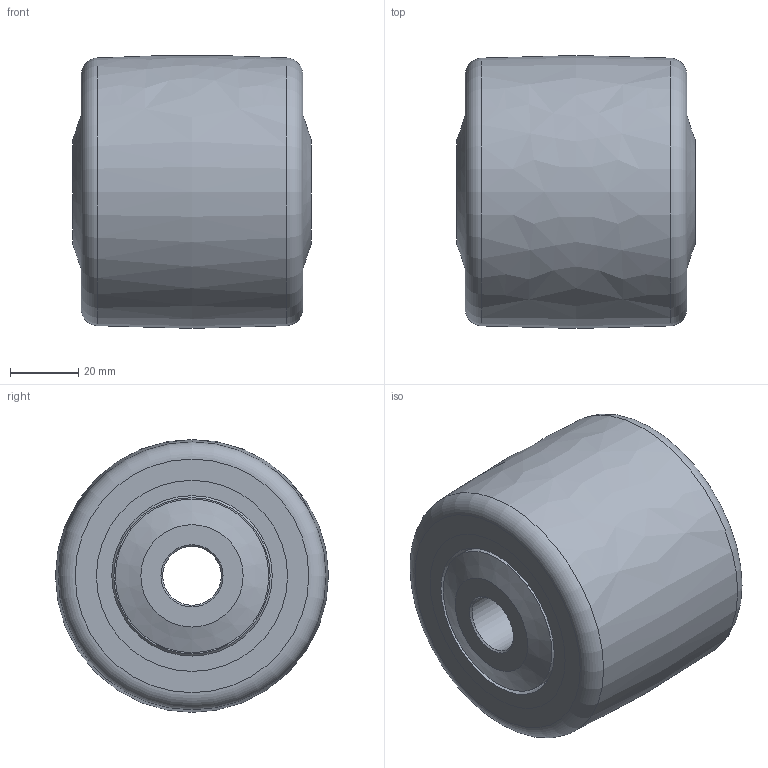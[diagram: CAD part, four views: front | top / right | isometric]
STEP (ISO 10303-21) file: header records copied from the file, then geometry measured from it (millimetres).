
FILE_DESCRIPTION(/* description */ (''),/* implementation_level */ '2;1');
FILE_NAME(/* name */ 'F:/기술영업부/홈페이지관련/2019/롤러도면/HURD-80-07017.step',/* time_stamp */ '2019-07-31T11:23:53+09:00',/* author */ (''),/* organization */ (''),/* preprocessor_version */ 'ST-DEVELOPER v18',/* originating_system */ 'Autodesk Translation Framework v8.2.0.1029',/* authorisation */ '');
FILE_SCHEMA (('AUTOMOTIVE_DESIGN { 1 0 10303 214 3 1 1 }'));
Length unit declared in the file: millimetre
Products named in the file (5): HURD-80-07017; Component1; Component2; Roller_Cover D17; Ball Bearing 6005
Assembly tree (6 placements, depth 2):
  HURD-80-07017
    Component1
    Component2
    Roller_Cover D17  x2
    Ball Bearing 6005  x2
Bounding box: 70 x 80 x 79.91 mm (x, y, z)
Volume: 265581.4 mm3; surface area: 88570.5 mm2
Topology: 40 solids, 40 shells, 124 faces, 336 edges, 242 vertices
Faces by surface type: cylinder 37, plane 30, sphere 28, cone 18, torus 10, bspline 1
Full cylindrical faces by diameter (mm): 17.2 x2, 24.8 x2, 25 x2, 30 x2, 32.923 x8, 39.077 x8, 41 x1, 45 x2, 47 x4, 53 x2, 56 x4
Entity records: 2508 total; most frequent: DIRECTION 472, CARTESIAN_POINT 423, ORIENTED_EDGE 340, AXIS2_PLACEMENT_3D 219, EDGE_CURVE 170, VERTEX_POINT 143, CIRCLE 136, EDGE_LOOP 91
